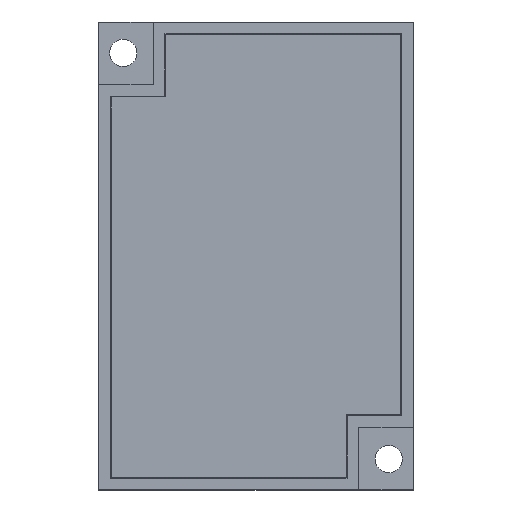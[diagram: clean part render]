
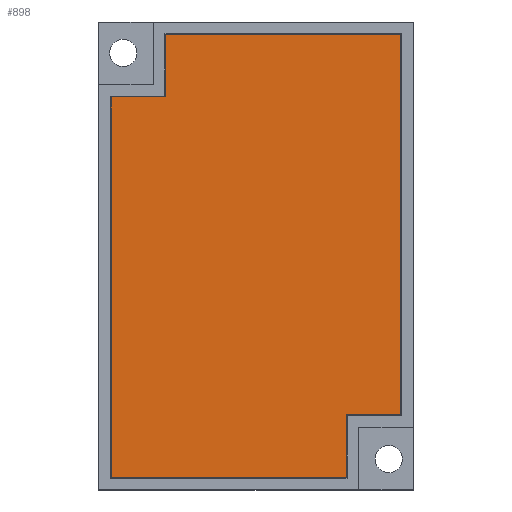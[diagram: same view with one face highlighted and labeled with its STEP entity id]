
A CAD part, top view. The second image highlights one B-rep face of the part: STEP entity #898.
In plain terms, the highlighted planar face has unit normal (0, 0, 1).
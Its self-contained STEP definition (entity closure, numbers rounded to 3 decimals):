
#127 = LINE ( 'NONE', #128, #129 ) ;
#128 = CARTESIAN_POINT ( 'NONE',  ( 28.55, -46.35, 7.5 ) ) ;
#129 = VECTOR ( 'NONE', #130, 1000. ) ;
#130 = DIRECTION ( 'NONE',  ( 1., 0., 0. ) ) ;
#242 = EDGE_CURVE ( 'NONE', #1672, #510, #758, .T. ) ;
#251 = ORIENTED_EDGE ( 'NONE', *, *, #1492, .T. ) ;
#271 = EDGE_CURVE ( 'NONE', #1101, #376, #984, .T. ) ;
#288 = ORIENTED_EDGE ( 'NONE', *, *, #527, .T. ) ;
#376 = VERTEX_POINT ( 'NONE', #1557 ) ;
#432 = VERTEX_POINT ( 'NONE', #1152 ) ;
#510 = VERTEX_POINT ( 'NONE', #832 ) ;
#527 = EDGE_CURVE ( 'NONE', #510, #555, #866, .T. ) ;
#548 = EDGE_CURVE ( 'NONE', #631, #432, #944, .T. ) ;
#555 = VERTEX_POINT ( 'NONE', #956 ) ;
#582 = ORIENTED_EDGE ( 'NONE', *, *, #1024, .T. ) ;
#590 = EDGE_CURVE ( 'NONE', #555, #1101, #1053, .T. ) ;
#631 = VERTEX_POINT ( 'NONE', #1276 ) ;
#635 = ORIENTED_EDGE ( 'NONE', *, *, #548, .T. ) ;
#711 = EDGE_LOOP ( 'NONE', ( #251, #635, #1623, #1674, #288, #1245, #1622, #582 ) ) ;
#758 = LINE ( 'NONE', #759, #760 ) ;
#759 = CARTESIAN_POINT ( 'NONE',  ( 5.45, 2.35, 7.5 ) ) ;
#760 = VECTOR ( 'NONE', #761, 1000. ) ;
#761 = DIRECTION ( 'NONE',  ( 0., -1., 0. ) ) ;
#832 = CARTESIAN_POINT ( 'NONE',  ( 5.45, -5.65, 7.5 ) ) ;
#866 = LINE ( 'NONE', #867, #868 ) ;
#867 = CARTESIAN_POINT ( 'NONE',  ( 5.45, -5.65, 7.5 ) ) ;
#868 = VECTOR ( 'NONE', #869, 1000. ) ;
#869 = DIRECTION ( 'NONE',  ( -1., 0., 0. ) ) ;
#898 = ADVANCED_FACE ( 'NONE', ( #1436 ), #1437, .T. ) ;
#944 = LINE ( 'NONE', #945, #946 ) ;
#945 = CARTESIAN_POINT ( 'NONE',  ( 35.55, -46.35, 7.5 ) ) ;
#946 = VECTOR ( 'NONE', #947, 1000. ) ;
#947 = DIRECTION ( 'NONE',  ( 0., 1., 0. ) ) ;
#956 = CARTESIAN_POINT ( 'NONE',  ( -1.55, -5.65, 7.5 ) ) ;
#984 = LINE ( 'NONE', #985, #986 ) ;
#985 = CARTESIAN_POINT ( 'NONE',  ( -1.55, -54.35, 7.5 ) ) ;
#986 = VECTOR ( 'NONE', #990, 1000. ) ;
#990 = DIRECTION ( 'NONE',  ( 1., 0., 0. ) ) ;
#1024 = EDGE_CURVE ( 'NONE', #376, #1544, #1504, .T. ) ;
#1053 = LINE ( 'NONE', #1054, #1055 ) ;
#1054 = CARTESIAN_POINT ( 'NONE',  ( -1.55, -5.65, 7.5 ) ) ;
#1055 = VECTOR ( 'NONE', #1056, 1000. ) ;
#1056 = DIRECTION ( 'NONE',  ( 0., -1., 0. ) ) ;
#1101 = VERTEX_POINT ( 'NONE', #1546 ) ;
#1126 = CARTESIAN_POINT ( 'NONE',  ( 28.55, -46.35, 7.5 ) ) ;
#1152 = CARTESIAN_POINT ( 'NONE',  ( 35.55, 2.35, 7.5 ) ) ;
#1245 = ORIENTED_EDGE ( 'NONE', *, *, #590, .T. ) ;
#1274 = CARTESIAN_POINT ( 'NONE',  ( 5.45, 2.35, 7.5 ) ) ;
#1276 = CARTESIAN_POINT ( 'NONE',  ( 35.55, -46.35, 7.5 ) ) ;
#1335 = LINE ( 'NONE', #1336, #1337 ) ;
#1336 = CARTESIAN_POINT ( 'NONE',  ( 35.55, 2.35, 7.5 ) ) ;
#1337 = VECTOR ( 'NONE', #1338, 1000. ) ;
#1338 = DIRECTION ( 'NONE',  ( -1., 0., 0. ) ) ;
#1436 = FACE_OUTER_BOUND ( 'NONE', #711, .T. ) ;
#1437 = PLANE ( 'NONE',  #1438 ) ;
#1438 = AXIS2_PLACEMENT_3D ( 'NONE', #1439, #1441, #1442 ) ;
#1439 = CARTESIAN_POINT ( 'NONE',  ( 30.15, 3.95, 7.5 ) ) ;
#1441 = DIRECTION ( 'NONE',  ( 0., 0., 1. ) ) ;
#1442 = DIRECTION ( 'NONE',  ( 1., 0., 0. ) ) ;
#1492 = EDGE_CURVE ( 'NONE', #1544, #631, #127, .T. ) ;
#1504 = LINE ( 'NONE', #1505, #1506 ) ;
#1505 = CARTESIAN_POINT ( 'NONE',  ( 28.55, -54.35, 7.5 ) ) ;
#1506 = VECTOR ( 'NONE', #1507, 1000. ) ;
#1507 = DIRECTION ( 'NONE',  ( 0., 1., 0. ) ) ;
#1544 = VERTEX_POINT ( 'NONE', #1126 ) ;
#1546 = CARTESIAN_POINT ( 'NONE',  ( -1.55, -54.35, 7.5 ) ) ;
#1557 = CARTESIAN_POINT ( 'NONE',  ( 28.55, -54.35, 7.5 ) ) ;
#1622 = ORIENTED_EDGE ( 'NONE', *, *, #271, .T. ) ;
#1623 = ORIENTED_EDGE ( 'NONE', *, *, #1678, .T. ) ;
#1672 = VERTEX_POINT ( 'NONE', #1274 ) ;
#1674 = ORIENTED_EDGE ( 'NONE', *, *, #242, .T. ) ;
#1678 = EDGE_CURVE ( 'NONE', #432, #1672, #1335, .T. ) ;
